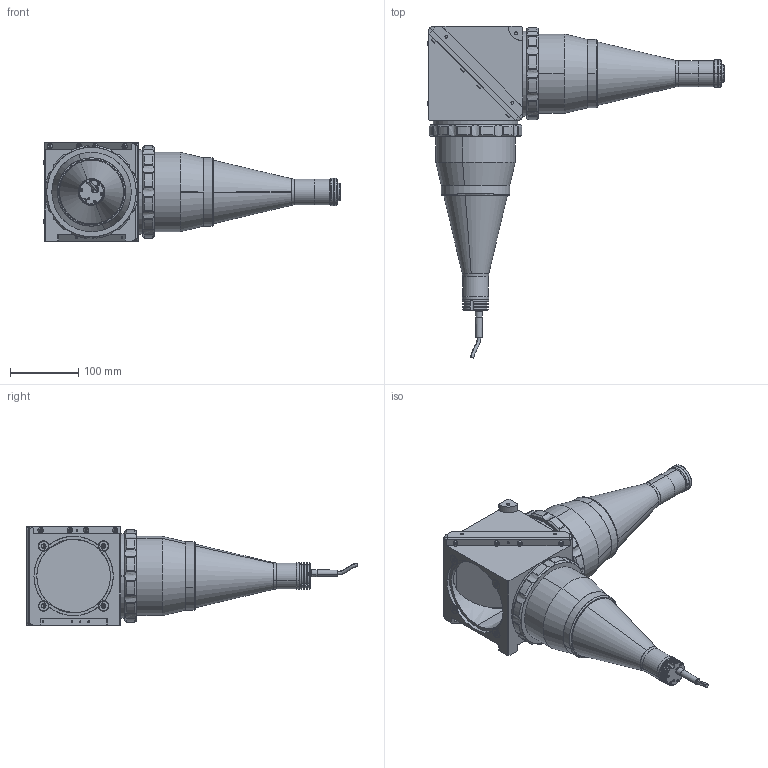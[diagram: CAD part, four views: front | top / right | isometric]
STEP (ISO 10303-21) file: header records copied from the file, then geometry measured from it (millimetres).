
FILE_DESCRIPTION(('LS-TCL-0406'),'2;1');
FILE_NAME('LS-TCL-0406.stp','2026-10-15T21:56:44',('LumaSpec Vision'),('LumaSpec Vision'),'LumaSpec Vision','LumaSpec Vision','');
FILE_SCHEMA(('AUTOMOTIVE_DESIGN { 1 0 10303 214 1 1 1 1 }'));
Length unit declared in the file: millimetre
Products named in the file (623): LumaSpec Vision
Assembly tree (622 placements, depth 2):
  LumaSpec Vision
    LumaSpec Vision
    LumaSpec Vision
    LumaSpec Vision
    LumaSpec Vision
    LumaSpec Vision
    LumaSpec Vision
    LumaSpec Vision
    LumaSpec Vision
    LumaSpec Vision
    LumaSpec Vision
    LumaSpec Vision
    LumaSpec Vision
    LumaSpec Vision
    LumaSpec Vision
    LumaSpec Vision
    LumaSpec Vision
    LumaSpec Vision
    LumaSpec Vision
    LumaSpec Vision
    LumaSpec Vision
    LumaSpec Vision
    LumaSpec Vision
    LumaSpec Vision
    LumaSpec Vision
    LumaSpec Vision
    LumaSpec Vision
    LumaSpec Vision
    LumaSpec Vision
    LumaSpec Vision
    LumaSpec Vision
    LumaSpec Vision
    LumaSpec Vision
    LumaSpec Vision
    LumaSpec Vision
    LumaSpec Vision
    LumaSpec Vision
    LumaSpec Vision
    LumaSpec Vision
    LumaSpec Vision
    LumaSpec Vision
    LumaSpec Vision
    LumaSpec Vision
    LumaSpec Vision
    LumaSpec Vision
    LumaSpec Vision
    LumaSpec Vision
    LumaSpec Vision
    LumaSpec Vision
    LumaSpec Vision
    LumaSpec Vision
    LumaSpec Vision
    LumaSpec Vision
    LumaSpec Vision
    LumaSpec Vision
    LumaSpec Vision
    LumaSpec Vision
    LumaSpec Vision
    LumaSpec Vision
    LumaSpec Vision
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Bounding box: 433.41 x 485.84 x 144 mm (x, y, z)
Surface area: 348745 mm2 (no closed solid volume)
Topology: 0 solids, 622 shells, 622 faces, 9933 edges, 9903 vertices
Faces by surface type: revolution 445, bspline 177
Entity records: 169185 total; most frequent: CARTESIAN_POINT 68259, B_SPLINE_CURVE_WITH_KNOTS 17673, ORIENTED_EDGE 9903, EDGE_CURVE 9903, VERTEX_POINT 9903, SURFACE_CURVE 9903, PCURVE 9903, DEFINITIONAL_REPRESENTATION 9903
